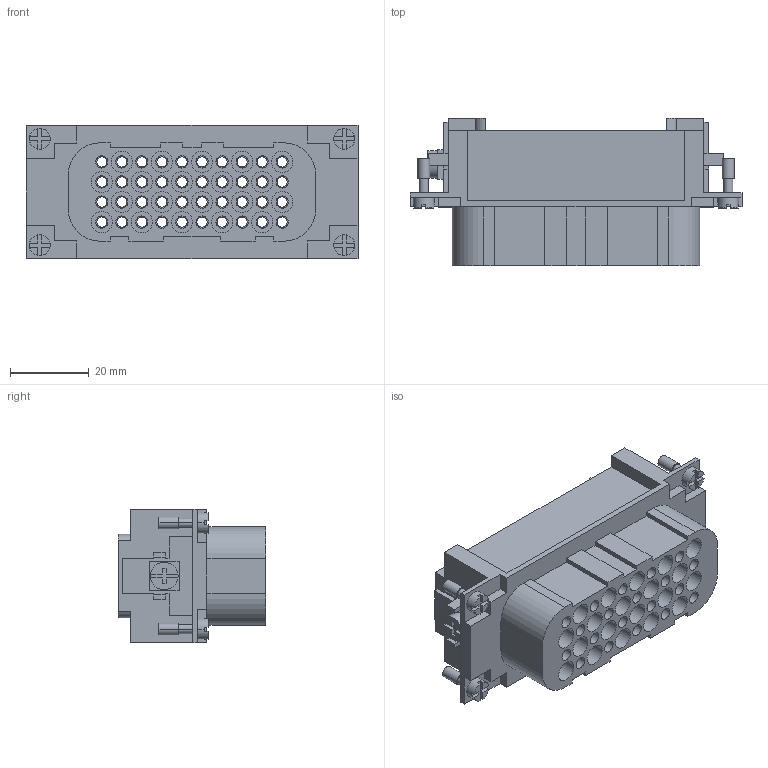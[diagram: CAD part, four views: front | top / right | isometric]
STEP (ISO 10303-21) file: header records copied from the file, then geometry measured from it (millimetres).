
FILE_DESCRIPTION (( 'STEP AP203' ), '1' );
FILE_NAME ('352227.STEP', '2025-06-26T05:23:46', ( '' ), ( '' ), 'SwSTEP 2.0', 'SolidWorks 2018', '' );
FILE_SCHEMA (( 'CONFIG_CONTROL_DESIGN' ));
Length unit declared in the file: millimetre
Products named in the file (1): 352227
Bounding box: 84.5 x 37.6 x 34 mm (x, y, z)
Volume: 46775.8 mm3; surface area: 29207.7 mm2
Topology: 1 solids, 1 shells, 738 faces, 1764 edges, 1176 vertices
Faces by surface type: cylinder 396, plane 342
Entity records: 21989 total; most frequent: DIRECTION 4086, CARTESIAN_POINT 3679, ORIENTED_EDGE 3528, EDGE_CURVE 1764, AXIS2_PLACEMENT_3D 1583, VERTEX_POINT 1176, EDGE_LOOP 966, VECTOR 920
